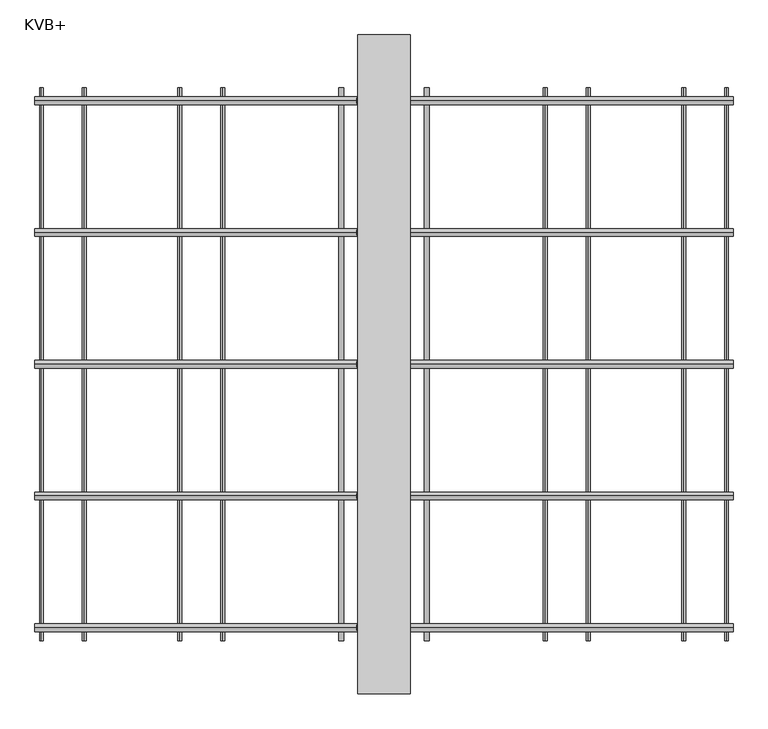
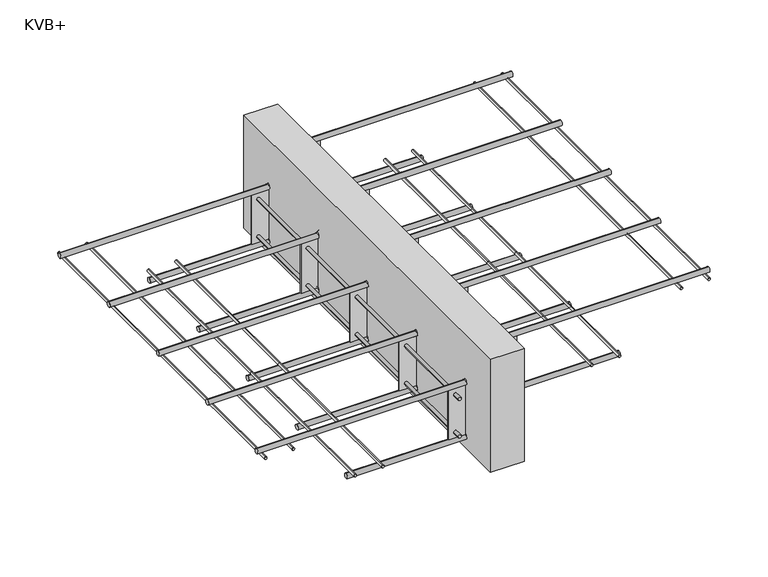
"""IFC4 building model written with IfcOpenShell, lengths in millimetres: proxy geometry, ACINOXplus_Typenreihe_KV : KVB+."""

from ifc_helpers import new_model, si_unit, point, frame, frame_2d, origin, place, context, project, spatial, polyline, circle_curve, ellipse_curve, trimmed, segment, composite_curve, outline, extrude, source, transform, mapped, element, save
from ifc_brep_helpers import plane_surface, cylinder_surface, advanced_brep


def kvb_4cf1eea2(model_context):
    return source(origin(), model_context, "Body", "SolidModel", [
        extrude(outline(polyline([(40.0, 500.0), (40.0, -500.0), (-40.0, -500.0), (-40.0, 500.0), (40.0, 500.0)])), frame((0.0, 0.0, -200.0), z_axis=(0.0, 0.0, 1.0), x_axis=(1.0, 0.0, 0.0)), (0.0, 0.0, 1.0), 280.0),
        extrude(outline(polyline([(-42.0, -40.0), (-42.0, -80.0), (-165.0, -80.0), (-165.0, -40.0), (-85.0, 40.0), (-85.0, 80.0), (38.0, 80.0), (38.0, 40.0), (-42.0, -40.0)])), frame((0.0, 198.5, 0.0), z_axis=(0.0, 1.0, 0.0), x_axis=(0.0, 0.0, 1.0)), (0.0, 0.0, 1.0), 3.0),
        extrude(outline(polyline([(-42.0, -40.0), (-42.0, -80.0), (-165.0, -80.0), (-165.0, -40.0), (-85.0, 40.0), (-85.0, 80.0), (38.0, 80.0), (38.0, 40.0), (-42.0, -40.0)])), frame((0.0, -1.5, 0.0), z_axis=(0.0, 1.0, 0.0), x_axis=(0.0, 0.0, 1.0)), (0.0, 0.0, 1.0), 3.0),
        extrude(outline(polyline([(-42.0, -40.0), (-42.0, -80.0), (-165.0, -80.0), (-165.0, -40.0), (-85.0, 40.0), (-85.0, 80.0), (38.0, 80.0), (38.0, 40.0), (-42.0, -40.0)])), frame((0.0, -201.5, 0.0), z_axis=(0.0, 1.0, 0.0), x_axis=(0.0, 0.0, 1.0)), (0.0, 0.0, 1.0), 3.0),
        extrude(outline(polyline([(-42.0, -40.0), (-42.0, -80.0), (-165.0, -80.0), (-165.0, -40.0), (-85.0, 40.0), (-85.0, 80.0), (38.0, 80.0), (38.0, 40.0), (-42.0, -40.0)])), frame((0.0, 398.5, 0.0), z_axis=(0.0, 1.0, 0.0), x_axis=(0.0, 0.0, 1.0)), (0.0, 0.0, 1.0), 3.0),
        extrude(outline(polyline([(-42.0, -40.0), (-42.0, -80.0), (-165.0, -80.0), (-165.0, -40.0), (-85.0, 40.0), (-85.0, 80.0), (38.0, 80.0), (38.0, 40.0), (-42.0, -40.0)])), frame((0.0, -401.5, 0.0), z_axis=(0.0, 1.0, 0.0), x_axis=(0.0, 0.0, 1.0)), (0.0, 0.0, 1.0), 3.0),
        extrude(outline(composite_curve([segment(trimmed(circle_curve(frame_2d((-150.0, -65.0)), 4.0), [point((-150.0, -69.0))], [point((-150.0, -61.0))], False, "CARTESIAN"), True, "CONTINUOUS"), segment(trimmed(circle_curve(frame_2d((-150.0, -65.0)), 4.0), [point((-150.0, -61.0))], [point((-150.0, -69.0))], False, "CARTESIAN"), True, "CONTINUOUS")], self_intersect=False)), frame((0.0, 401.5, 0.0), z_axis=(0.0, 1.0, 0.0), x_axis=(0.0, 0.0, 1.0)), (0.0, 0.0, 1.0), 18.5),
        extrude(outline(composite_curve([segment(trimmed(circle_curve(frame_2d((-150.0, -65.0)), 4.0), [point((-150.0, -61.0))], [point((-150.0, -69.0))], False, "CARTESIAN"), True, "CONTINUOUS"), segment(trimmed(circle_curve(frame_2d((-150.0, -65.0)), 4.0), [point((-150.0, -69.0))], [point((-150.0, -61.0))], False, "CARTESIAN"), True, "CONTINUOUS")], self_intersect=False)), frame((0.0, -420.0, 0.0), z_axis=(0.0, 1.0, 0.0), x_axis=(0.0, 0.0, 1.0)), (0.0, 0.0, 1.0), 18.5),
        extrude(outline(composite_curve([segment(trimmed(circle_curve(frame_2d((-150.0, -65.0)), 4.0), [point((-150.0, -69.0))], [point((-150.0, -61.0))], False, "CARTESIAN"), True, "CONTINUOUS"), segment(trimmed(circle_curve(frame_2d((-150.0, -65.0)), 4.0), [point((-150.0, -61.0))], [point((-150.0, -69.0))], False, "CARTESIAN"), True, "CONTINUOUS")], self_intersect=False)), frame((0.0, -398.5, 0.0), z_axis=(0.0, 1.0, 0.0), x_axis=(0.0, 0.0, 1.0)), (0.0, 0.0, 1.0), 197.0),
        extrude(outline(composite_curve([segment(trimmed(circle_curve(frame_2d((-150.0, -65.0)), 4.0), [point((-150.0, -69.0))], [point((-150.0, -61.0))], False, "CARTESIAN"), True, "CONTINUOUS"), segment(trimmed(circle_curve(frame_2d((-150.0, -65.0)), 4.0), [point((-150.0, -61.0))], [point((-150.0, -69.0))], False, "CARTESIAN"), True, "CONTINUOUS")], self_intersect=False)), frame((0.0, -198.5, 0.0), z_axis=(0.0, 1.0, 0.0), x_axis=(0.0, 0.0, 1.0)), (0.0, 0.0, 1.0), 597.0),
        extrude(outline(composite_curve([segment(trimmed(circle_curve(frame_2d((-70.0, 65.0)), 4.0), [point((-70.0, 61.0))], [point((-70.0, 69.0))], False, "CARTESIAN"), True, "CONTINUOUS"), segment(trimmed(circle_curve(frame_2d((-70.0, 65.0)), 4.0), [point((-70.0, 69.0))], [point((-70.0, 61.0))], False, "CARTESIAN"), True, "CONTINUOUS")], self_intersect=False)), frame((0.0, 401.5, 0.0), z_axis=(0.0, 1.0, 0.0), x_axis=(0.0, 0.0, 1.0)), (0.0, 0.0, 1.0), 18.5),
        extrude(outline(composite_curve([segment(trimmed(circle_curve(frame_2d((-70.0, 65.0)), 4.0), [point((-70.0, 69.0))], [point((-70.0, 61.0))], False, "CARTESIAN"), True, "CONTINUOUS"), segment(trimmed(circle_curve(frame_2d((-70.0, 65.0)), 4.0), [point((-70.0, 61.0))], [point((-70.0, 69.0))], False, "CARTESIAN"), True, "CONTINUOUS")], self_intersect=False)), frame((0.0, -420.0, 0.0), z_axis=(0.0, 1.0, 0.0), x_axis=(0.0, 0.0, 1.0)), (0.0, 0.0, 1.0), 18.5),
        extrude(outline(composite_curve([segment(trimmed(circle_curve(frame_2d((-70.0, 65.0)), 4.0), [point((-70.0, 61.0))], [point((-70.0, 69.0))], False, "CARTESIAN"), True, "CONTINUOUS"), segment(trimmed(circle_curve(frame_2d((-70.0, 65.0)), 4.0), [point((-70.0, 69.0))], [point((-70.0, 61.0))], False, "CARTESIAN"), True, "CONTINUOUS")], self_intersect=False)), frame((0.0, -198.5, 0.0), z_axis=(0.0, 1.0, 0.0), x_axis=(0.0, 0.0, 1.0)), (0.0, 0.0, 1.0), 597.0),
        extrude(outline(composite_curve([segment(trimmed(circle_curve(frame_2d((-70.0, 65.0)), 4.0), [point((-70.0, 61.0))], [point((-70.0, 69.0))], False, "CARTESIAN"), True, "CONTINUOUS"), segment(trimmed(circle_curve(frame_2d((-70.0, 65.0)), 4.0), [point((-70.0, 69.0))], [point((-70.0, 61.0))], False, "CARTESIAN"), True, "CONTINUOUS")], self_intersect=False)), frame((0.0, -398.5, 0.0), z_axis=(0.0, 1.0, 0.0), x_axis=(0.0, 0.0, 1.0)), (0.0, 0.0, 1.0), 197.0),
        extrude(outline(composite_curve([segment(trimmed(circle_curve(frame_2d((-57.0, -65.0)), 4.0), [point((-57.0, -69.0))], [point((-57.0, -61.0))], False, "CARTESIAN"), True, "CONTINUOUS"), segment(trimmed(circle_curve(frame_2d((-57.0, -65.0)), 4.0), [point((-57.0, -61.0))], [point((-57.0, -69.0))], False, "CARTESIAN"), True, "CONTINUOUS")], self_intersect=False)), frame((0.0, 401.5, 0.0), z_axis=(0.0, 1.0, 0.0), x_axis=(0.0, 0.0, 1.0)), (0.0, 0.0, 1.0), 18.5),
        extrude(outline(composite_curve([segment(trimmed(circle_curve(frame_2d((-57.0, -65.0)), 4.0), [point((-57.0, -61.0))], [point((-57.0, -69.0))], False, "CARTESIAN"), True, "CONTINUOUS"), segment(trimmed(circle_curve(frame_2d((-57.0, -65.0)), 4.0), [point((-57.0, -69.0))], [point((-57.0, -61.0))], False, "CARTESIAN"), True, "CONTINUOUS")], self_intersect=False)), frame((0.0, -420.0, 0.0), z_axis=(0.0, 1.0, 0.0), x_axis=(0.0, 0.0, 1.0)), (0.0, 0.0, 1.0), 18.5),
        extrude(outline(composite_curve([segment(trimmed(circle_curve(frame_2d((-57.0, -65.0)), 4.0), [point((-57.0, -69.0))], [point((-57.0, -61.0))], False, "CARTESIAN"), True, "CONTINUOUS"), segment(trimmed(circle_curve(frame_2d((-57.0, -65.0)), 4.0), [point((-57.0, -61.0))], [point((-57.0, -69.0))], False, "CARTESIAN"), True, "CONTINUOUS")], self_intersect=False)), frame((0.0, -398.5, 0.0), z_axis=(0.0, 1.0, 0.0), x_axis=(0.0, 0.0, 1.0)), (0.0, 0.0, 1.0), 197.0),
        extrude(outline(composite_curve([segment(trimmed(circle_curve(frame_2d((-57.0, -65.0)), 4.0), [point((-57.0, -69.0))], [point((-57.0, -61.0))], False, "CARTESIAN"), True, "CONTINUOUS"), segment(trimmed(circle_curve(frame_2d((-57.0, -65.0)), 4.0), [point((-57.0, -61.0))], [point((-57.0, -69.0))], False, "CARTESIAN"), True, "CONTINUOUS")], self_intersect=False)), frame((0.0, -198.5, 0.0), z_axis=(0.0, 1.0, 0.0), x_axis=(0.0, 0.0, 1.0)), (0.0, 0.0, 1.0), 597.0),
        extrude(outline(composite_curve([segment(trimmed(circle_curve(frame_2d((23.0, 65.0)), 4.0), [point((23.0, 61.0))], [point((23.0, 69.0))], False, "CARTESIAN"), True, "CONTINUOUS"), segment(trimmed(circle_curve(frame_2d((23.0, 65.0)), 4.0), [point((23.0, 69.0))], [point((23.0, 61.0))], False, "CARTESIAN"), True, "CONTINUOUS")], self_intersect=False)), frame((0.0, 401.5, 0.0), z_axis=(0.0, 1.0, 0.0), x_axis=(0.0, 0.0, 1.0)), (0.0, 0.0, 1.0), 18.5),
        extrude(outline(composite_curve([segment(trimmed(circle_curve(frame_2d((23.0, 65.0)), 4.0), [point((23.0, 69.0))], [point((23.0, 61.0))], False, "CARTESIAN"), True, "CONTINUOUS"), segment(trimmed(circle_curve(frame_2d((23.0, 65.0)), 4.0), [point((23.0, 61.0))], [point((23.0, 69.0))], False, "CARTESIAN"), True, "CONTINUOUS")], self_intersect=False)), frame((0.0, -420.0, 0.0), z_axis=(0.0, 1.0, 0.0), x_axis=(0.0, 0.0, 1.0)), (0.0, 0.0, 1.0), 18.5),
        extrude(outline(composite_curve([segment(trimmed(circle_curve(frame_2d((23.0, 65.0)), 4.0), [point((23.0, 61.0))], [point((23.0, 69.0))], False, "CARTESIAN"), True, "CONTINUOUS"), segment(trimmed(circle_curve(frame_2d((23.0, 65.0)), 4.0), [point((23.0, 69.0))], [point((23.0, 61.0))], False, "CARTESIAN"), True, "CONTINUOUS")], self_intersect=False)), frame((0.0, -198.5, 0.0), z_axis=(0.0, 1.0, 0.0), x_axis=(0.0, 0.0, 1.0)), (0.0, 0.0, 1.0), 597.0),
        extrude(outline(composite_curve([segment(trimmed(circle_curve(frame_2d((23.0, 65.0)), 4.0), [point((23.0, 61.0))], [point((23.0, 69.0))], False, "CARTESIAN"), True, "CONTINUOUS"), segment(trimmed(circle_curve(frame_2d((23.0, 65.0)), 4.0), [point((23.0, 69.0))], [point((23.0, 61.0))], False, "CARTESIAN"), True, "CONTINUOUS")], self_intersect=False)), frame((0.0, -398.5, 0.0), z_axis=(0.0, 1.0, 0.0), x_axis=(0.0, 0.0, 1.0)), (0.0, 0.0, 1.0), 197.0),
        advanced_brep(
        [(-320.0, 0.0, -177.0), (-320.0, 0.0, -165.0), (-37.5147186, 0.0, -177.0), (-42.4852814, 0.0, -165.0), (42.4852814, 0.0, -97.0), (37.5147186, 0.0, -85.0), (320.0, 0.0, -97.0), (320.0, 0.0, -85.0)],
        [
            (0, 1, circle_curve(frame((-320.0, 0.0, -171.0), z_axis=(-1.0, 0.0, 0.0), x_axis=(0.0, 0.0, 1.0)), 6.0)),
            (1, 0, circle_curve(frame((-320.0, 0.0, -171.0), z_axis=(-1.0, 0.0, 0.0), x_axis=(0.0, 0.0, 1.0)), 6.0)),
            (0, 2),
            (2, 3, ellipse_curve(frame((-40.0, 0.0, -171.0), z_axis=(-0.9238795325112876, 0.0, -0.382683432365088), x_axis=(-0.3826834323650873, 0.0, 0.923879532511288)), 6.4943532, 6.0)),
            (3, 1),
            (3, 2, ellipse_curve(frame((-40.0, 0.0, -171.0), z_axis=(-0.9238795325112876, 0.0, -0.382683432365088), x_axis=(-0.3826834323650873, 0.0, 0.923879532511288)), 6.4943532, 6.0)),
            (2, 4),
            (4, 5, ellipse_curve(frame((40.0, 0.0, -91.0), z_axis=(-0.9238795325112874, 0.0, -0.382683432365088), x_axis=(0.3826834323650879, 0.0, -0.9238795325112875)), 6.4943532, 6.0)),
            (5, 3),
            (5, 4, ellipse_curve(frame((40.0, 0.0, -91.0), z_axis=(-0.9238795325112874, 0.0, -0.382683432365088), x_axis=(0.3826834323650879, 0.0, -0.9238795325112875)), 6.4943532, 6.0)),
            (6, 7, circle_curve(frame((320.0, 0.0, -91.0), z_axis=(1.0, 0.0, 0.0), x_axis=(0.0, 0.0, 1.0)), 6.0)),
            (7, 6, circle_curve(frame((320.0, 0.0, -91.0), z_axis=(1.0, 0.0, 0.0), x_axis=(0.0, 0.0, 1.0)), 6.0)),
            (4, 6),
            (7, 5),
        ],
        [
            plane_surface(frame((-320.0, 0.0, -171.0), z_axis=(-1.0, 0.0, 0.0), x_axis=(0.0, -1.0, 0.0))),
            cylinder_surface(frame((-320.0, 0.0, -171.0), z_axis=(-1.0, 0.0, 0.0), x_axis=(0.0, 0.0, 1.0)), 6.0),
            cylinder_surface(frame((-40.0, 0.0, -171.0), z_axis=(-0.707106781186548, 0.0, -0.707106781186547), x_axis=(-0.707106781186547, 0.0, 0.707106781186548)), 6.0),
            plane_surface(frame((320.0, 0.0, -91.0), z_axis=(1.0, 0.0, 0.0), x_axis=(0.0, -1.0, 0.0))),
            cylinder_surface(frame((40.0, 0.0, -91.0), z_axis=(-1.0, 0.0, 0.0), x_axis=(0.0, 0.0, 1.0)), 6.0),
        ],
        [
            (0, [[1, 2]]),
            (1, [[-1, 3, 4, 5]]),
            (1, [[-2, -5, 6, -3]]),
            (2, [[-4, 7, 8, 9]]),
            (2, [[-6, -9, 10, -7]]),
            (3, [[11, 12]]),
            (4, [[-8, 13, -12, 14]]),
            (4, [[-10, -14, -11, -13]]),
        ],
    ),
        advanced_brep(
        [(-320.0, 200.0, -177.0), (-320.0, 200.0, -165.0), (-37.5147186, 200.0, -177.0), (-42.4852814, 200.0, -165.0), (42.4852814, 200.0, -97.0), (37.5147186, 200.0, -85.0), (320.0, 200.0, -97.0), (320.0, 200.0, -85.0)],
        [
            (0, 1, circle_curve(frame((-320.0, 200.0, -171.0), z_axis=(-1.0, 0.0, 0.0), x_axis=(0.0, 0.0, 1.0)), 6.0)),
            (1, 0, circle_curve(frame((-320.0, 200.0, -171.0), z_axis=(-1.0, 0.0, 0.0), x_axis=(0.0, 0.0, 1.0)), 6.0)),
            (0, 2),
            (2, 3, ellipse_curve(frame((-40.0, 200.0, -171.0), z_axis=(-0.9238795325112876, 0.0, -0.382683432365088), x_axis=(-0.3826834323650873, 0.0, 0.923879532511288)), 6.4943532, 6.0)),
            (3, 1),
            (3, 2, ellipse_curve(frame((-40.0, 200.0, -171.0), z_axis=(-0.9238795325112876, 0.0, -0.382683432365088), x_axis=(-0.3826834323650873, 0.0, 0.923879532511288)), 6.4943532, 6.0)),
            (2, 4),
            (4, 5, ellipse_curve(frame((40.0, 200.0, -91.0), z_axis=(-0.9238795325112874, 0.0, -0.382683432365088), x_axis=(0.3826834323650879, 0.0, -0.9238795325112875)), 6.4943532, 6.0)),
            (5, 3),
            (5, 4, ellipse_curve(frame((40.0, 200.0, -91.0), z_axis=(-0.9238795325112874, 0.0, -0.382683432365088), x_axis=(0.3826834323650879, 0.0, -0.9238795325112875)), 6.4943532, 6.0)),
            (6, 7, circle_curve(frame((320.0, 200.0, -91.0), z_axis=(1.0, 0.0, 0.0), x_axis=(0.0, 0.0, 1.0)), 6.0)),
            (7, 6, circle_curve(frame((320.0, 200.0, -91.0), z_axis=(1.0, 0.0, 0.0), x_axis=(0.0, 0.0, 1.0)), 6.0)),
            (4, 6),
            (7, 5),
        ],
        [
            plane_surface(frame((-320.0, 200.0, -171.0), z_axis=(-1.0, 0.0, 0.0), x_axis=(0.0, -1.0, 0.0))),
            cylinder_surface(frame((-320.0, 200.0, -171.0), z_axis=(-1.0, 0.0, 0.0), x_axis=(0.0, 0.0, 1.0)), 6.0),
            cylinder_surface(frame((-40.0, 200.0, -171.0), z_axis=(-0.707106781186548, 0.0, -0.707106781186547), x_axis=(-0.707106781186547, 0.0, 0.707106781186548)), 6.0),
            plane_surface(frame((320.0, 200.0, -91.0), z_axis=(1.0, 0.0, 0.0), x_axis=(0.0, -1.0, 0.0))),
            cylinder_surface(frame((40.0, 200.0, -91.0), z_axis=(-1.0, 0.0, 0.0), x_axis=(0.0, 0.0, 1.0)), 6.0),
        ],
        [
            (0, [[1, 2]]),
            (1, [[-1, 3, 4, 5]]),
            (1, [[-2, -5, 6, -3]]),
            (2, [[-4, 7, 8, 9]]),
            (2, [[-6, -9, 10, -7]]),
            (3, [[11, 12]]),
            (4, [[-8, 13, -12, 14]]),
            (4, [[-10, -14, -11, -13]]),
        ],
    ),
        advanced_brep(
        [(-320.0, 400.0, -177.0), (-320.0, 400.0, -165.0), (-37.5147186, 400.0, -177.0), (-42.4852814, 400.0, -165.0), (42.4852814, 400.0, -97.0), (37.5147186, 400.0, -85.0), (320.0, 400.0, -97.0), (320.0, 400.0, -85.0)],
        [
            (0, 1, circle_curve(frame((-320.0, 400.0, -171.0), z_axis=(-1.0, 0.0, 0.0), x_axis=(0.0, 0.0, 1.0)), 6.0)),
            (1, 0, circle_curve(frame((-320.0, 400.0, -171.0), z_axis=(-1.0, 0.0, 0.0), x_axis=(0.0, 0.0, 1.0)), 6.0)),
            (0, 2),
            (2, 3, ellipse_curve(frame((-40.0, 400.0, -171.0), z_axis=(-0.9238795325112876, 0.0, -0.382683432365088), x_axis=(-0.3826834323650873, 0.0, 0.923879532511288)), 6.4943532, 6.0)),
            (3, 1),
            (3, 2, ellipse_curve(frame((-40.0, 400.0, -171.0), z_axis=(-0.9238795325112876, 0.0, -0.382683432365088), x_axis=(-0.3826834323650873, 0.0, 0.923879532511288)), 6.4943532, 6.0)),
            (2, 4),
            (4, 5, ellipse_curve(frame((40.0, 400.0, -91.0), z_axis=(-0.9238795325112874, 0.0, -0.382683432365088), x_axis=(0.3826834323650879, 0.0, -0.9238795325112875)), 6.4943532, 6.0)),
            (5, 3),
            (5, 4, ellipse_curve(frame((40.0, 400.0, -91.0), z_axis=(-0.9238795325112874, 0.0, -0.382683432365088), x_axis=(0.3826834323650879, 0.0, -0.9238795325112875)), 6.4943532, 6.0)),
            (6, 7, circle_curve(frame((320.0, 400.0, -91.0), z_axis=(1.0, 0.0, 0.0), x_axis=(0.0, 0.0, 1.0)), 6.0)),
            (7, 6, circle_curve(frame((320.0, 400.0, -91.0), z_axis=(1.0, 0.0, 0.0), x_axis=(0.0, 0.0, 1.0)), 6.0)),
            (4, 6),
            (7, 5),
        ],
        [
            plane_surface(frame((-320.0, 400.0, -171.0), z_axis=(-1.0, 0.0, 0.0), x_axis=(0.0, -1.0, 0.0))),
            cylinder_surface(frame((-320.0, 400.0, -171.0), z_axis=(-1.0, 0.0, 0.0), x_axis=(0.0, 0.0, 1.0)), 6.0),
            cylinder_surface(frame((-40.0, 400.0, -171.0), z_axis=(-0.707106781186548, 0.0, -0.707106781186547), x_axis=(-0.707106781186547, 0.0, 0.707106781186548)), 6.0),
            plane_surface(frame((320.0, 400.0, -91.0), z_axis=(1.0, 0.0, 0.0), x_axis=(0.0, -1.0, 0.0))),
            cylinder_surface(frame((40.0, 400.0, -91.0), z_axis=(-1.0, 0.0, 0.0), x_axis=(0.0, 0.0, 1.0)), 6.0),
        ],
        [
            (0, [[1, 2]]),
            (1, [[-1, 3, 4, 5]]),
            (1, [[-2, -5, 6, -3]]),
            (2, [[-4, 7, 8, 9]]),
            (2, [[-6, -9, 10, -7]]),
            (3, [[11, 12]]),
            (4, [[-8, 13, -12, 14]]),
            (4, [[-10, -14, -11, -13]]),
        ],
    ),
        advanced_brep(
        [(-320.0, -200.0, -177.0), (-320.0, -200.0, -165.0), (-37.5147186, -200.0, -177.0), (-42.4852814, -200.0, -165.0), (42.4852814, -200.0, -97.0), (37.5147186, -200.0, -85.0), (320.0, -200.0, -97.0), (320.0, -200.0, -85.0)],
        [
            (0, 1, circle_curve(frame((-320.0, -200.0, -171.0), z_axis=(-1.0, 0.0, 0.0), x_axis=(0.0, 0.0, 1.0)), 6.0)),
            (1, 0, circle_curve(frame((-320.0, -200.0, -171.0), z_axis=(-1.0, 0.0, 0.0), x_axis=(0.0, 0.0, 1.0)), 6.0)),
            (0, 2),
            (2, 3, ellipse_curve(frame((-40.0, -200.0, -171.0), z_axis=(-0.9238795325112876, 0.0, -0.382683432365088), x_axis=(-0.3826834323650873, 0.0, 0.923879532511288)), 6.4943532, 6.0)),
            (3, 1),
            (3, 2, ellipse_curve(frame((-40.0, -200.0, -171.0), z_axis=(-0.9238795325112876, 0.0, -0.382683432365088), x_axis=(-0.3826834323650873, 0.0, 0.923879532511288)), 6.4943532, 6.0)),
            (2, 4),
            (4, 5, ellipse_curve(frame((40.0, -200.0, -91.0), z_axis=(-0.9238795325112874, 0.0, -0.382683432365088), x_axis=(0.3826834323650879, 0.0, -0.9238795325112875)), 6.4943532, 6.0)),
            (5, 3),
            (5, 4, ellipse_curve(frame((40.0, -200.0, -91.0), z_axis=(-0.9238795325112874, 0.0, -0.382683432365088), x_axis=(0.3826834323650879, 0.0, -0.9238795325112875)), 6.4943532, 6.0)),
            (6, 7, circle_curve(frame((320.0, -200.0, -91.0), z_axis=(1.0, 0.0, 0.0), x_axis=(0.0, 0.0, 1.0)), 6.0)),
            (7, 6, circle_curve(frame((320.0, -200.0, -91.0), z_axis=(1.0, 0.0, 0.0), x_axis=(0.0, 0.0, 1.0)), 6.0)),
            (4, 6),
            (7, 5),
        ],
        [
            plane_surface(frame((-320.0, -200.0, -171.0), z_axis=(-1.0, 0.0, 0.0), x_axis=(0.0, -1.0, 0.0))),
            cylinder_surface(frame((-320.0, -200.0, -171.0), z_axis=(-1.0, 0.0, 0.0), x_axis=(0.0, 0.0, 1.0)), 6.0),
            cylinder_surface(frame((-40.0, -200.0, -171.0), z_axis=(-0.707106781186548, 0.0, -0.707106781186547), x_axis=(-0.707106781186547, 0.0, 0.707106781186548)), 6.0),
            plane_surface(frame((320.0, -200.0, -91.0), z_axis=(1.0, 0.0, 0.0), x_axis=(0.0, -1.0, 0.0))),
            cylinder_surface(frame((40.0, -200.0, -91.0), z_axis=(-1.0, 0.0, 0.0), x_axis=(0.0, 0.0, 1.0)), 6.0),
        ],
        [
            (0, [[1, 2]]),
            (1, [[-1, 3, 4, 5]]),
            (1, [[-2, -5, 6, -3]]),
            (2, [[-4, 7, 8, 9]]),
            (2, [[-6, -9, 10, -7]]),
            (3, [[11, 12]]),
            (4, [[-8, 13, -12, 14]]),
            (4, [[-10, -14, -11, -13]]),
        ],
    ),
        advanced_brep(
        [(-320.0, -400.0, -177.0), (-320.0, -400.0, -165.0), (-37.5147186, -400.0, -177.0), (-42.4852814, -400.0, -165.0), (42.4852814, -400.0, -97.0), (37.5147186, -400.0, -85.0), (320.0, -400.0, -97.0), (320.0, -400.0, -85.0)],
        [
            (0, 1, circle_curve(frame((-320.0, -400.0, -171.0), z_axis=(-1.0, 0.0, 0.0), x_axis=(0.0, 0.0, 1.0)), 6.0)),
            (1, 0, circle_curve(frame((-320.0, -400.0, -171.0), z_axis=(-1.0, 0.0, 0.0), x_axis=(0.0, 0.0, 1.0)), 6.0)),
            (0, 2),
            (2, 3, ellipse_curve(frame((-40.0, -400.0, -171.0), z_axis=(-0.9238795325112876, 0.0, -0.382683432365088), x_axis=(-0.3826834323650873, 0.0, 0.923879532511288)), 6.4943532, 6.0)),
            (3, 1),
            (3, 2, ellipse_curve(frame((-40.0, -400.0, -171.0), z_axis=(-0.9238795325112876, 0.0, -0.382683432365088), x_axis=(-0.3826834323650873, 0.0, 0.923879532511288)), 6.4943532, 6.0)),
            (2, 4),
            (4, 5, ellipse_curve(frame((40.0, -400.0, -91.0), z_axis=(-0.9238795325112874, 0.0, -0.382683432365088), x_axis=(0.3826834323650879, 0.0, -0.9238795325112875)), 6.4943532, 6.0)),
            (5, 3),
            (5, 4, ellipse_curve(frame((40.0, -400.0, -91.0), z_axis=(-0.9238795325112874, 0.0, -0.382683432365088), x_axis=(0.3826834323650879, 0.0, -0.9238795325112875)), 6.4943532, 6.0)),
            (6, 7, circle_curve(frame((320.0, -400.0, -91.0), z_axis=(1.0, 0.0, 0.0), x_axis=(0.0, 0.0, 1.0)), 6.0)),
            (7, 6, circle_curve(frame((320.0, -400.0, -91.0), z_axis=(1.0, 0.0, 0.0), x_axis=(0.0, 0.0, 1.0)), 6.0)),
            (4, 6),
            (7, 5),
        ],
        [
            plane_surface(frame((-320.0, -400.0, -171.0), z_axis=(-1.0, 0.0, 0.0), x_axis=(0.0, -1.0, 0.0))),
            cylinder_surface(frame((-320.0, -400.0, -171.0), z_axis=(-1.0, 0.0, 0.0), x_axis=(0.0, 0.0, 1.0)), 6.0),
            cylinder_surface(frame((-40.0, -400.0, -171.0), z_axis=(-0.707106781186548, 0.0, -0.707106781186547), x_axis=(-0.707106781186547, 0.0, 0.707106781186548)), 6.0),
            plane_surface(frame((320.0, -400.0, -91.0), z_axis=(1.0, 0.0, 0.0), x_axis=(0.0, -1.0, 0.0))),
            cylinder_surface(frame((40.0, -400.0, -91.0), z_axis=(-1.0, 0.0, 0.0), x_axis=(0.0, 0.0, 1.0)), 6.0),
        ],
        [
            (0, [[1, 2]]),
            (1, [[-1, 3, 4, 5]]),
            (1, [[-2, -5, 6, -3]]),
            (2, [[-4, 7, 8, 9]]),
            (2, [[-6, -9, 10, -7]]),
            (3, [[11, 12]]),
            (4, [[-8, 13, -12, 14]]),
            (4, [[-10, -14, -11, -13]]),
        ],
    ),
        advanced_brep(
        [(-530.0, 0.0, -42.0), (-530.0, 0.0, -30.0), (-37.5147186, 0.0, -42.0), (-42.4852814, 0.0, -30.0), (530.0, 0.0, 38.0), (530.0, 0.0, 50.0), (37.5147186, 0.0, 50.0), (42.4852814, 0.0, 38.0)],
        [
            (0, 1, circle_curve(frame((-530.0, 0.0, -36.0), z_axis=(-1.0, 0.0, 0.0), x_axis=(0.0, 0.0, 1.0)), 6.0)),
            (1, 0, circle_curve(frame((-530.0, 0.0, -36.0), z_axis=(-1.0, 0.0, 0.0), x_axis=(0.0, 0.0, 1.0)), 6.0)),
            (0, 2),
            (2, 3, ellipse_curve(frame((-40.0, 0.0, -36.0), z_axis=(-0.923879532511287, 0.0, -0.38268343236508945), x_axis=(-0.38268343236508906, 0.0, 0.9238795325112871)), 6.4943532, 6.0)),
            (3, 1),
            (3, 2, ellipse_curve(frame((-40.0, 0.0, -36.0), z_axis=(-0.923879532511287, 0.0, -0.38268343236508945), x_axis=(-0.38268343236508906, 0.0, 0.9238795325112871)), 6.4943532, 6.0)),
            (4, 5, circle_curve(frame((530.0, 0.0, 44.0), z_axis=(1.0, 0.0, 0.0), x_axis=(0.0, 0.0, 1.0)), 6.0)),
            (5, 4, circle_curve(frame((530.0, 0.0, 44.0), z_axis=(1.0, 0.0, 0.0), x_axis=(0.0, 0.0, 1.0)), 6.0)),
            (6, 7, ellipse_curve(frame((40.0, 0.0, 44.0), z_axis=(0.923879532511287, 0.0, 0.38268343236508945), x_axis=(-0.38268343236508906, 0.0, 0.9238795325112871)), 6.4943532, 6.0)),
            (7, 4),
            (5, 6),
            (7, 6, ellipse_curve(frame((40.0, 0.0, 44.0), z_axis=(0.923879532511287, 0.0, 0.38268343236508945), x_axis=(-0.38268343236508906, 0.0, 0.9238795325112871)), 6.4943532, 6.0)),
            (2, 7),
            (6, 3),
        ],
        [
            plane_surface(frame((-530.0, 0.0, -36.0), z_axis=(-1.0, 0.0, 0.0), x_axis=(0.0, -1.0, 0.0))),
            cylinder_surface(frame((-530.0, 0.0, -36.0), z_axis=(-1.0, 0.0, 0.0), x_axis=(0.0, 0.0, 1.0)), 6.0),
            plane_surface(frame((530.0, 0.0, 44.0), z_axis=(1.0, 0.0, 0.0), x_axis=(0.0, -1.0, 0.0))),
            cylinder_surface(frame((40.0, 0.0, 44.0), z_axis=(-1.0, 0.0, 0.0), x_axis=(0.0, 0.0, 1.0)), 6.0),
            cylinder_surface(frame((-40.0, 0.0, -36.0), z_axis=(-0.7071067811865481, 0.0, -0.707106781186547), x_axis=(-0.707106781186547, 0.0, 0.7071067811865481)), 6.0),
        ],
        [
            (0, [[1, 2]]),
            (1, [[-1, 3, 4, 5]]),
            (1, [[-2, -5, 6, -3]]),
            (2, [[7, 8]]),
            (3, [[9, 10, -8, 11]]),
            (3, [[12, -11, -7, -10]]),
            (4, [[-4, 13, -9, 14]]),
            (4, [[-6, -14, -12, -13]]),
        ],
    ),
        advanced_brep(
        [(-530.0, 200.0, -42.0), (-530.0, 200.0, -30.0), (-37.5147186, 200.0, -42.0), (-42.4852814, 200.0, -30.0), (530.0, 200.0, 38.0), (530.0, 200.0, 50.0), (37.5147186, 200.0, 50.0), (42.4852814, 200.0, 38.0)],
        [
            (0, 1, circle_curve(frame((-530.0, 200.0, -36.0), z_axis=(-1.0, 0.0, 0.0), x_axis=(0.0, 0.0, 1.0)), 6.0)),
            (1, 0, circle_curve(frame((-530.0, 200.0, -36.0), z_axis=(-1.0, 0.0, 0.0), x_axis=(0.0, 0.0, 1.0)), 6.0)),
            (0, 2),
            (2, 3, ellipse_curve(frame((-40.0, 200.0, -36.0), z_axis=(-0.923879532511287, 0.0, -0.38268343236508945), x_axis=(-0.38268343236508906, 0.0, 0.9238795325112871)), 6.4943532, 6.0)),
            (3, 1),
            (3, 2, ellipse_curve(frame((-40.0, 200.0, -36.0), z_axis=(-0.923879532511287, 0.0, -0.38268343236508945), x_axis=(-0.38268343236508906, 0.0, 0.9238795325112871)), 6.4943532, 6.0)),
            (4, 5, circle_curve(frame((530.0, 200.0, 44.0), z_axis=(1.0, 0.0, 0.0), x_axis=(0.0, 0.0, 1.0)), 6.0)),
            (5, 4, circle_curve(frame((530.0, 200.0, 44.0), z_axis=(1.0, 0.0, 0.0), x_axis=(0.0, 0.0, 1.0)), 6.0)),
            (6, 7, ellipse_curve(frame((40.0, 200.0, 44.0), z_axis=(0.923879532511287, 0.0, 0.38268343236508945), x_axis=(-0.38268343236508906, 0.0, 0.9238795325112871)), 6.4943532, 6.0)),
            (7, 4),
            (5, 6),
            (7, 6, ellipse_curve(frame((40.0, 200.0, 44.0), z_axis=(0.923879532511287, 0.0, 0.38268343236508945), x_axis=(-0.38268343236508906, 0.0, 0.9238795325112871)), 6.4943532, 6.0)),
            (2, 7),
            (6, 3),
        ],
        [
            plane_surface(frame((-530.0, 200.0, -36.0), z_axis=(-1.0, 0.0, 0.0), x_axis=(0.0, -1.0, 0.0))),
            cylinder_surface(frame((-530.0, 200.0, -36.0), z_axis=(-1.0, 0.0, 0.0), x_axis=(0.0, 0.0, 1.0)), 6.0),
            plane_surface(frame((530.0, 200.0, 44.0), z_axis=(1.0, 0.0, 0.0), x_axis=(0.0, -1.0, 0.0))),
            cylinder_surface(frame((40.0, 200.0, 44.0), z_axis=(-1.0, 0.0, 0.0), x_axis=(0.0, 0.0, 1.0)), 6.0),
            cylinder_surface(frame((-40.0, 200.0, -36.0), z_axis=(-0.7071067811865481, 0.0, -0.707106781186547), x_axis=(-0.707106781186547, 0.0, 0.7071067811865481)), 6.0),
        ],
        [
            (0, [[1, 2]]),
            (1, [[-1, 3, 4, 5]]),
            (1, [[-2, -5, 6, -3]]),
            (2, [[7, 8]]),
            (3, [[9, 10, -8, 11]]),
            (3, [[12, -11, -7, -10]]),
            (4, [[-4, 13, -9, 14]]),
            (4, [[-6, -14, -12, -13]]),
        ],
    ),
        advanced_brep(
        [(-530.0, 400.0, -42.0), (-530.0, 400.0, -30.0), (-37.5147186, 400.0, -42.0), (-42.4852814, 400.0, -30.0), (530.0, 400.0, 38.0), (530.0, 400.0, 50.0), (37.5147186, 400.0, 50.0), (42.4852814, 400.0, 38.0)],
        [
            (0, 1, circle_curve(frame((-530.0, 400.0, -36.0), z_axis=(-1.0, 0.0, 0.0), x_axis=(0.0, 0.0, 1.0)), 6.0)),
            (1, 0, circle_curve(frame((-530.0, 400.0, -36.0), z_axis=(-1.0, 0.0, 0.0), x_axis=(0.0, 0.0, 1.0)), 6.0)),
            (0, 2),
            (2, 3, ellipse_curve(frame((-40.0, 400.0, -36.0), z_axis=(-0.923879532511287, 0.0, -0.38268343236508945), x_axis=(-0.38268343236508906, 0.0, 0.9238795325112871)), 6.4943532, 6.0)),
            (3, 1),
            (3, 2, ellipse_curve(frame((-40.0, 400.0, -36.0), z_axis=(-0.923879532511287, 0.0, -0.38268343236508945), x_axis=(-0.38268343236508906, 0.0, 0.9238795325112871)), 6.4943532, 6.0)),
            (4, 5, circle_curve(frame((530.0, 400.0, 44.0), z_axis=(1.0, 0.0, 0.0), x_axis=(0.0, 0.0, 1.0)), 6.0)),
            (5, 4, circle_curve(frame((530.0, 400.0, 44.0), z_axis=(1.0, 0.0, 0.0), x_axis=(0.0, 0.0, 1.0)), 6.0)),
            (6, 7, ellipse_curve(frame((40.0, 400.0, 44.0), z_axis=(0.923879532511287, 0.0, 0.38268343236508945), x_axis=(-0.38268343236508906, 0.0, 0.9238795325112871)), 6.4943532, 6.0)),
            (7, 4),
            (5, 6),
            (7, 6, ellipse_curve(frame((40.0, 400.0, 44.0), z_axis=(0.923879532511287, 0.0, 0.38268343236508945), x_axis=(-0.38268343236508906, 0.0, 0.9238795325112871)), 6.4943532, 6.0)),
            (2, 7),
            (6, 3),
        ],
        [
            plane_surface(frame((-530.0, 400.0, -36.0), z_axis=(-1.0, 0.0, 0.0), x_axis=(0.0, -1.0, 0.0))),
            cylinder_surface(frame((-530.0, 400.0, -36.0), z_axis=(-1.0, 0.0, 0.0), x_axis=(0.0, 0.0, 1.0)), 6.0),
            plane_surface(frame((530.0, 400.0, 44.0), z_axis=(1.0, 0.0, 0.0), x_axis=(0.0, -1.0, 0.0))),
            cylinder_surface(frame((40.0, 400.0, 44.0), z_axis=(-1.0, 0.0, 0.0), x_axis=(0.0, 0.0, 1.0)), 6.0),
            cylinder_surface(frame((-40.0, 400.0, -36.0), z_axis=(-0.7071067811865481, 0.0, -0.707106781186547), x_axis=(-0.707106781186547, 0.0, 0.7071067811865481)), 6.0),
        ],
        [
            (0, [[1, 2]]),
            (1, [[-1, 3, 4, 5]]),
            (1, [[-2, -5, 6, -3]]),
            (2, [[7, 8]]),
            (3, [[9, 10, -8, 11]]),
            (3, [[12, -11, -7, -10]]),
            (4, [[-4, 13, -9, 14]]),
            (4, [[-6, -14, -12, -13]]),
        ],
    ),
        advanced_brep(
        [(-530.0, -200.0, -42.0), (-530.0, -200.0, -30.0), (-37.5147186, -200.0, -42.0), (-42.4852814, -200.0, -30.0), (530.0, -200.0, 38.0), (530.0, -200.0, 50.0), (37.5147186, -200.0, 50.0), (42.4852814, -200.0, 38.0)],
        [
            (0, 1, circle_curve(frame((-530.0, -200.0, -36.0), z_axis=(-1.0, 0.0, 0.0), x_axis=(0.0, 0.0, 1.0)), 6.0)),
            (1, 0, circle_curve(frame((-530.0, -200.0, -36.0), z_axis=(-1.0, 0.0, 0.0), x_axis=(0.0, 0.0, 1.0)), 6.0)),
            (0, 2),
            (2, 3, ellipse_curve(frame((-40.0, -200.0, -36.0), z_axis=(-0.923879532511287, 0.0, -0.38268343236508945), x_axis=(-0.38268343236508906, 0.0, 0.9238795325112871)), 6.4943532, 6.0)),
            (3, 1),
            (3, 2, ellipse_curve(frame((-40.0, -200.0, -36.0), z_axis=(-0.923879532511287, 0.0, -0.38268343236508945), x_axis=(-0.38268343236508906, 0.0, 0.9238795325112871)), 6.4943532, 6.0)),
            (4, 5, circle_curve(frame((530.0, -200.0, 44.0), z_axis=(1.0, 0.0, 0.0), x_axis=(0.0, 0.0, 1.0)), 6.0)),
            (5, 4, circle_curve(frame((530.0, -200.0, 44.0), z_axis=(1.0, 0.0, 0.0), x_axis=(0.0, 0.0, 1.0)), 6.0)),
            (6, 7, ellipse_curve(frame((40.0, -200.0, 44.0), z_axis=(0.923879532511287, 0.0, 0.38268343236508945), x_axis=(-0.38268343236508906, 0.0, 0.9238795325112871)), 6.4943532, 6.0)),
            (7, 4),
            (5, 6),
            (7, 6, ellipse_curve(frame((40.0, -200.0, 44.0), z_axis=(0.923879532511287, 0.0, 0.38268343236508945), x_axis=(-0.38268343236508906, 0.0, 0.9238795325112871)), 6.4943532, 6.0)),
            (2, 7),
            (6, 3),
        ],
        [
            plane_surface(frame((-530.0, -200.0, -36.0), z_axis=(-1.0, 0.0, 0.0), x_axis=(0.0, -1.0, 0.0))),
            cylinder_surface(frame((-530.0, -200.0, -36.0), z_axis=(-1.0, 0.0, 0.0), x_axis=(0.0, 0.0, 1.0)), 6.0),
            plane_surface(frame((530.0, -200.0, 44.0), z_axis=(1.0, 0.0, 0.0), x_axis=(0.0, -1.0, 0.0))),
            cylinder_surface(frame((40.0, -200.0, 44.0), z_axis=(-1.0, 0.0, 0.0), x_axis=(0.0, 0.0, 1.0)), 6.0),
            cylinder_surface(frame((-40.0, -200.0, -36.0), z_axis=(-0.7071067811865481, 0.0, -0.707106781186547), x_axis=(-0.707106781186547, 0.0, 0.7071067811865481)), 6.0),
        ],
        [
            (0, [[1, 2]]),
            (1, [[-1, 3, 4, 5]]),
            (1, [[-2, -5, 6, -3]]),
            (2, [[7, 8]]),
            (3, [[9, 10, -8, 11]]),
            (3, [[12, -11, -7, -10]]),
            (4, [[-4, 13, -9, 14]]),
            (4, [[-6, -14, -12, -13]]),
        ],
    ),
        advanced_brep(
        [(-530.0, -400.0, -42.0), (-530.0, -400.0, -30.0), (-37.5147186, -400.0, -42.0), (-42.4852814, -400.0, -30.0), (530.0, -400.0, 38.0), (530.0, -400.0, 50.0), (37.5147186, -400.0, 50.0), (42.4852814, -400.0, 38.0)],
        [
            (0, 1, circle_curve(frame((-530.0, -400.0, -36.0), z_axis=(-1.0, 0.0, 0.0), x_axis=(0.0, 0.0, 1.0)), 6.0)),
            (1, 0, circle_curve(frame((-530.0, -400.0, -36.0), z_axis=(-1.0, 0.0, 0.0), x_axis=(0.0, 0.0, 1.0)), 6.0)),
            (0, 2),
            (2, 3, ellipse_curve(frame((-40.0, -400.0, -36.0), z_axis=(-0.923879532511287, 0.0, -0.38268343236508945), x_axis=(-0.38268343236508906, 0.0, 0.9238795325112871)), 6.4943532, 6.0)),
            (3, 1),
            (3, 2, ellipse_curve(frame((-40.0, -400.0, -36.0), z_axis=(-0.923879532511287, 0.0, -0.38268343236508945), x_axis=(-0.38268343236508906, 0.0, 0.9238795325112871)), 6.4943532, 6.0)),
            (4, 5, circle_curve(frame((530.0, -400.0, 44.0), z_axis=(1.0, 0.0, 0.0), x_axis=(0.0, 0.0, 1.0)), 6.0)),
            (5, 4, circle_curve(frame((530.0, -400.0, 44.0), z_axis=(1.0, 0.0, 0.0), x_axis=(0.0, 0.0, 1.0)), 6.0)),
            (6, 7, ellipse_curve(frame((40.0, -400.0, 44.0), z_axis=(0.923879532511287, 0.0, 0.38268343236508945), x_axis=(-0.38268343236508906, 0.0, 0.9238795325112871)), 6.4943532, 6.0)),
            (7, 4),
            (5, 6),
            (7, 6, ellipse_curve(frame((40.0, -400.0, 44.0), z_axis=(0.923879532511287, 0.0, 0.38268343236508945), x_axis=(-0.38268343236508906, 0.0, 0.9238795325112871)), 6.4943532, 6.0)),
            (2, 7),
            (6, 3),
        ],
        [
            plane_surface(frame((-530.0, -400.0, -36.0), z_axis=(-1.0, 0.0, 0.0), x_axis=(0.0, -1.0, 0.0))),
            cylinder_surface(frame((-530.0, -400.0, -36.0), z_axis=(-1.0, 0.0, 0.0), x_axis=(0.0, 0.0, 1.0)), 6.0),
            plane_surface(frame((530.0, -400.0, 44.0), z_axis=(1.0, 0.0, 0.0), x_axis=(0.0, -1.0, 0.0))),
            cylinder_surface(frame((40.0, -400.0, 44.0), z_axis=(-1.0, 0.0, 0.0), x_axis=(0.0, 0.0, 1.0)), 6.0),
            cylinder_surface(frame((-40.0, -400.0, -36.0), z_axis=(-0.7071067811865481, 0.0, -0.707106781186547), x_axis=(-0.707106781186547, 0.0, 0.7071067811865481)), 6.0),
        ],
        [
            (0, [[1, 2]]),
            (1, [[-1, 3, 4, 5]]),
            (1, [[-2, -5, 6, -3]]),
            (2, [[7, 8]]),
            (3, [[9, 10, -8, 11]]),
            (3, [[12, -11, -7, -10]]),
            (4, [[-4, 13, -9, 14]]),
            (4, [[-6, -14, -12, -13]]),
        ],
    ),
        advanced_brep(
        [(-310.0, -420.0, -165.0), (-310.0, -420.0, -159.0), (-310.0, 0.0, -165.0), (-310.0, 0.0, -159.0), (-310.0, 420.0, -165.0), (-310.0, 420.0, -159.0)],
        [
            (0, 1, circle_curve(frame((-310.0, -420.0, -162.0), z_axis=(0.0, -1.0, 0.0), x_axis=(0.0, 0.0, 1.0)), 3.0)),
            (1, 0, circle_curve(frame((-310.0, -420.0, -162.0), z_axis=(0.0, -1.0, 0.0), x_axis=(0.0, 0.0, 1.0)), 3.0)),
            (0, 2),
            (2, 3, circle_curve(frame((-310.0, 0.0, -162.0), z_axis=(0.0, -1.0, 0.0), x_axis=(0.0, 0.0, 1.0)), 3.0)),
            (3, 1),
            (3, 2, circle_curve(frame((-310.0, 0.0, -162.0), z_axis=(0.0, -1.0, 0.0), x_axis=(0.0, 0.0, 1.0)), 3.0)),
            (4, 5, circle_curve(frame((-310.0, 420.0, -162.0), z_axis=(0.0, 1.0, 0.0), x_axis=(0.0, 0.0, 1.0)), 3.0)),
            (5, 4, circle_curve(frame((-310.0, 420.0, -162.0), z_axis=(0.0, 1.0, 0.0), x_axis=(0.0, 0.0, 1.0)), 3.0)),
            (2, 4),
            (5, 3),
        ],
        [
            plane_surface(frame((-310.0, -420.0, -162.0), z_axis=(0.0, -1.0, 0.0), x_axis=(1.0, 0.0, 0.0))),
            cylinder_surface(frame((-310.0, -420.0, -162.0), z_axis=(0.0, -1.0, 0.0), x_axis=(0.0, 0.0, 1.0)), 3.0),
            plane_surface(frame((-310.0, 420.0, -162.0), z_axis=(0.0, 1.0, 0.0), x_axis=(1.0, 0.0, 0.0))),
            cylinder_surface(frame((-310.0, 0.0, -162.0), z_axis=(0.0, -1.0, 0.0), x_axis=(0.0, 0.0, 1.0)), 3.0),
        ],
        [
            (0, [[1, 2]]),
            (1, [[-1, 3, 4, 5]]),
            (1, [[-2, -5, 6, -3]]),
            (2, [[7, 8]]),
            (3, [[-4, 9, -8, 10]]),
            (3, [[-6, -10, -7, -9]]),
        ],
    ),
        advanced_brep(
        [(-245.0, -420.0, -165.0), (-245.0, -420.0, -159.0), (-245.0, 0.0, -165.0), (-245.0, 0.0, -159.0), (-245.0, 420.0, -165.0), (-245.0, 420.0, -159.0)],
        [
            (0, 1, circle_curve(frame((-245.0, -420.0, -162.0), z_axis=(0.0, -1.0, 0.0), x_axis=(0.0, 0.0, 1.0)), 3.0)),
            (1, 0, circle_curve(frame((-245.0, -420.0, -162.0), z_axis=(0.0, -1.0, 0.0), x_axis=(0.0, 0.0, 1.0)), 3.0)),
            (0, 2),
            (2, 3, circle_curve(frame((-245.0, 0.0, -162.0), z_axis=(0.0, -1.0, 0.0), x_axis=(0.0, 0.0, 1.0)), 3.0)),
            (3, 1),
            (3, 2, circle_curve(frame((-245.0, 0.0, -162.0), z_axis=(0.0, -1.0, 0.0), x_axis=(0.0, 0.0, 1.0)), 3.0)),
            (4, 5, circle_curve(frame((-245.0, 420.0, -162.0), z_axis=(0.0, 1.0, 0.0), x_axis=(0.0, 0.0, 1.0)), 3.0)),
            (5, 4, circle_curve(frame((-245.0, 420.0, -162.0), z_axis=(0.0, 1.0, 0.0), x_axis=(0.0, 0.0, 1.0)), 3.0)),
            (2, 4),
            (5, 3),
        ],
        [
            plane_surface(frame((-245.0, -420.0, -162.0), z_axis=(0.0, -1.0, 0.0), x_axis=(1.0, 0.0, 0.0))),
            cylinder_surface(frame((-245.0, -420.0, -162.0), z_axis=(0.0, -1.0, 0.0), x_axis=(0.0, 0.0, 1.0)), 3.0),
            plane_surface(frame((-245.0, 420.0, -162.0), z_axis=(0.0, 1.0, 0.0), x_axis=(1.0, 0.0, 0.0))),
            cylinder_surface(frame((-245.0, 0.0, -162.0), z_axis=(0.0, -1.0, 0.0), x_axis=(0.0, 0.0, 1.0)), 3.0),
        ],
        [
            (0, [[1, 2]]),
            (1, [[-1, 3, 4, 5]]),
            (1, [[-2, -5, 6, -3]]),
            (2, [[7, 8]]),
            (3, [[-4, 9, -8, 10]]),
            (3, [[-6, -10, -7, -9]]),
        ],
    ),
        advanced_brep(
        [(245.0, -420.0, -85.0), (245.0, -420.0, -79.0), (245.0, 0.0, -85.0), (245.0, 0.0, -79.0), (245.0, 420.0, -85.0), (245.0, 420.0, -79.0)],
        [
            (0, 1, circle_curve(frame((245.0, -420.0, -82.0), z_axis=(0.0, -1.0, 0.0), x_axis=(0.0, 0.0, 1.0)), 3.0)),
            (1, 0, circle_curve(frame((245.0, -420.0, -82.0), z_axis=(0.0, -1.0, 0.0), x_axis=(0.0, 0.0, 1.0)), 3.0)),
            (0, 2),
            (2, 3, circle_curve(frame((245.0, 0.0, -82.0), z_axis=(0.0, -1.0, 0.0), x_axis=(0.0, 0.0, 1.0)), 3.0)),
            (3, 1),
            (3, 2, circle_curve(frame((245.0, 0.0, -82.0), z_axis=(0.0, -1.0, 0.0), x_axis=(0.0, 0.0, 1.0)), 3.0)),
            (4, 5, circle_curve(frame((245.0, 420.0, -82.0), z_axis=(0.0, 1.0, 0.0), x_axis=(0.0, 0.0, 1.0)), 3.0)),
            (5, 4, circle_curve(frame((245.0, 420.0, -82.0), z_axis=(0.0, 1.0, 0.0), x_axis=(0.0, 0.0, 1.0)), 3.0)),
            (2, 4),
            (5, 3),
        ],
        [
            plane_surface(frame((245.0, -420.0, -82.0), z_axis=(0.0, -1.0, 0.0), x_axis=(1.0, 0.0, 0.0))),
            cylinder_surface(frame((245.0, -420.0, -82.0), z_axis=(0.0, -1.0, 0.0), x_axis=(0.0, 0.0, 1.0)), 3.0),
            plane_surface(frame((245.0, 420.0, -82.0), z_axis=(0.0, 1.0, 0.0), x_axis=(1.0, 0.0, 0.0))),
            cylinder_surface(frame((245.0, 0.0, -82.0), z_axis=(0.0, -1.0, 0.0), x_axis=(0.0, 0.0, 1.0)), 3.0),
        ],
        [
            (0, [[1, 2]]),
            (1, [[-1, 3, 4, 5]]),
            (1, [[-2, -5, 6, -3]]),
            (2, [[7, 8]]),
            (3, [[-4, 9, -8, 10]]),
            (3, [[-6, -10, -7, -9]]),
        ],
    ),
        advanced_brep(
        [(310.0, -420.0, -85.0), (310.0, -420.0, -79.0), (310.0, 0.0, -85.0), (310.0, 0.0, -79.0), (310.0, 420.0, -85.0), (310.0, 420.0, -79.0)],
        [
            (0, 1, circle_curve(frame((310.0, -420.0, -82.0), z_axis=(0.0, -1.0, 0.0), x_axis=(0.0, 0.0, 1.0)), 3.0)),
            (1, 0, circle_curve(frame((310.0, -420.0, -82.0), z_axis=(0.0, -1.0, 0.0), x_axis=(0.0, 0.0, 1.0)), 3.0)),
            (0, 2),
            (2, 3, circle_curve(frame((310.0, 0.0, -82.0), z_axis=(0.0, -1.0, 0.0), x_axis=(0.0, 0.0, 1.0)), 3.0)),
            (3, 1),
            (3, 2, circle_curve(frame((310.0, 0.0, -82.0), z_axis=(0.0, -1.0, 0.0), x_axis=(0.0, 0.0, 1.0)), 3.0)),
            (4, 5, circle_curve(frame((310.0, 420.0, -82.0), z_axis=(0.0, 1.0, 0.0), x_axis=(0.0, 0.0, 1.0)), 3.0)),
            (5, 4, circle_curve(frame((310.0, 420.0, -82.0), z_axis=(0.0, 1.0, 0.0), x_axis=(0.0, 0.0, 1.0)), 3.0)),
            (2, 4),
            (5, 3),
        ],
        [
            plane_surface(frame((310.0, -420.0, -82.0), z_axis=(0.0, -1.0, 0.0), x_axis=(1.0, 0.0, 0.0))),
            cylinder_surface(frame((310.0, -420.0, -82.0), z_axis=(0.0, -1.0, 0.0), x_axis=(0.0, 0.0, 1.0)), 3.0),
            plane_surface(frame((310.0, 420.0, -82.0), z_axis=(0.0, 1.0, 0.0), x_axis=(1.0, 0.0, 0.0))),
            cylinder_surface(frame((310.0, 0.0, -82.0), z_axis=(0.0, -1.0, 0.0), x_axis=(0.0, 0.0, 1.0)), 3.0),
        ],
        [
            (0, [[1, 2]]),
            (1, [[-1, 3, 4, 5]]),
            (1, [[-2, -5, 6, -3]]),
            (2, [[7, 8]]),
            (3, [[-4, 9, -8, 10]]),
            (3, [[-6, -10, -7, -9]]),
        ],
    ),
        advanced_brep(
        [(455.0, -420.0, 32.0), (455.0, -420.0, 38.0), (455.0, 0.0, 32.0), (455.0, 0.0, 38.0), (455.0, 420.0, 32.0), (455.0, 420.0, 38.0)],
        [
            (0, 1, circle_curve(frame((455.0, -420.0, 35.0), z_axis=(0.0, -1.0, 0.0), x_axis=(0.0, 0.0, 1.0)), 3.0)),
            (1, 0, circle_curve(frame((455.0, -420.0, 35.0), z_axis=(0.0, -1.0, 0.0), x_axis=(0.0, 0.0, 1.0)), 3.0)),
            (0, 2),
            (2, 3, circle_curve(frame((455.0, 0.0, 35.0), z_axis=(0.0, -1.0, 0.0), x_axis=(0.0, 0.0, 1.0)), 3.0)),
            (3, 1),
            (3, 2, circle_curve(frame((455.0, 0.0, 35.0), z_axis=(0.0, -1.0, 0.0), x_axis=(0.0, 0.0, 1.0)), 3.0)),
            (4, 5, circle_curve(frame((455.0, 420.0, 35.0), z_axis=(0.0, 1.0, 0.0), x_axis=(0.0, 0.0, 1.0)), 3.0)),
            (5, 4, circle_curve(frame((455.0, 420.0, 35.0), z_axis=(0.0, 1.0, 0.0), x_axis=(0.0, 0.0, 1.0)), 3.0)),
            (2, 4),
            (5, 3),
        ],
        [
            plane_surface(frame((455.0, -420.0, 35.0), z_axis=(0.0, -1.0, 0.0), x_axis=(1.0, 0.0, 0.0))),
            cylinder_surface(frame((455.0, -420.0, 35.0), z_axis=(0.0, -1.0, 0.0), x_axis=(0.0, 0.0, 1.0)), 3.0),
            plane_surface(frame((455.0, 420.0, 35.0), z_axis=(0.0, 1.0, 0.0), x_axis=(1.0, 0.0, 0.0))),
            cylinder_surface(frame((455.0, 0.0, 35.0), z_axis=(0.0, -1.0, 0.0), x_axis=(0.0, 0.0, 1.0)), 3.0),
        ],
        [
            (0, [[1, 2]]),
            (1, [[-1, 3, 4, 5]]),
            (1, [[-2, -5, 6, -3]]),
            (2, [[7, 8]]),
            (3, [[-4, 9, -8, 10]]),
            (3, [[-6, -10, -7, -9]]),
        ],
    ),
        advanced_brep(
        [(520.0, -420.0, 32.0), (520.0, -420.0, 38.0), (520.0, 0.0, 32.0), (520.0, 0.0, 38.0), (520.0, 420.0, 32.0), (520.0, 420.0, 38.0)],
        [
            (0, 1, circle_curve(frame((520.0, -420.0, 35.0), z_axis=(0.0, -1.0, 0.0), x_axis=(0.0, 0.0, 1.0)), 3.0)),
            (1, 0, circle_curve(frame((520.0, -420.0, 35.0), z_axis=(0.0, -1.0, 0.0), x_axis=(0.0, 0.0, 1.0)), 3.0)),
            (0, 2),
            (2, 3, circle_curve(frame((520.0, 0.0, 35.0), z_axis=(0.0, -1.0, 0.0), x_axis=(0.0, 0.0, 1.0)), 3.0)),
            (3, 1),
            (3, 2, circle_curve(frame((520.0, 0.0, 35.0), z_axis=(0.0, -1.0, 0.0), x_axis=(0.0, 0.0, 1.0)), 3.0)),
            (4, 5, circle_curve(frame((520.0, 420.0, 35.0), z_axis=(0.0, 1.0, 0.0), x_axis=(0.0, 0.0, 1.0)), 3.0)),
            (5, 4, circle_curve(frame((520.0, 420.0, 35.0), z_axis=(0.0, 1.0, 0.0), x_axis=(0.0, 0.0, 1.0)), 3.0)),
            (2, 4),
            (5, 3),
        ],
        [
            plane_surface(frame((520.0, -420.0, 35.0), z_axis=(0.0, -1.0, 0.0), x_axis=(1.0, 0.0, 0.0))),
            cylinder_surface(frame((520.0, -420.0, 35.0), z_axis=(0.0, -1.0, 0.0), x_axis=(0.0, 0.0, 1.0)), 3.0),
            plane_surface(frame((520.0, 420.0, 35.0), z_axis=(0.0, 1.0, 0.0), x_axis=(1.0, 0.0, 0.0))),
            cylinder_surface(frame((520.0, 0.0, 35.0), z_axis=(0.0, -1.0, 0.0), x_axis=(0.0, 0.0, 1.0)), 3.0),
        ],
        [
            (0, [[1, 2]]),
            (1, [[-1, 3, 4, 5]]),
            (1, [[-2, -5, 6, -3]]),
            (2, [[7, 8]]),
            (3, [[-4, 9, -8, 10]]),
            (3, [[-6, -10, -7, -9]]),
        ],
    ),
        advanced_brep(
        [(-520.0, -420.0, -48.0), (-520.0, -420.0, -42.0), (-520.0, 0.0, -48.0), (-520.0, 0.0, -42.0), (-520.0, 420.0, -48.0), (-520.0, 420.0, -42.0)],
        [
            (0, 1, circle_curve(frame((-520.0, -420.0, -45.0), z_axis=(0.0, -1.0, 0.0), x_axis=(0.0, 0.0, 1.0)), 3.0)),
            (1, 0, circle_curve(frame((-520.0, -420.0, -45.0), z_axis=(0.0, -1.0, 0.0), x_axis=(0.0, 0.0, 1.0)), 3.0)),
            (0, 2),
            (2, 3, circle_curve(frame((-520.0, 0.0, -45.0), z_axis=(0.0, -1.0, 0.0), x_axis=(0.0, 0.0, 1.0)), 3.0)),
            (3, 1),
            (3, 2, circle_curve(frame((-520.0, 0.0, -45.0), z_axis=(0.0, -1.0, 0.0), x_axis=(0.0, 0.0, 1.0)), 3.0)),
            (4, 5, circle_curve(frame((-520.0, 420.0, -45.0), z_axis=(0.0, 1.0, 0.0), x_axis=(0.0, 0.0, 1.0)), 3.0)),
            (5, 4, circle_curve(frame((-520.0, 420.0, -45.0), z_axis=(0.0, 1.0, 0.0), x_axis=(0.0, 0.0, 1.0)), 3.0)),
            (2, 4),
            (5, 3),
        ],
        [
            plane_surface(frame((-520.0, -420.0, -45.0), z_axis=(0.0, -1.0, 0.0), x_axis=(1.0, 0.0, 0.0))),
            cylinder_surface(frame((-520.0, -420.0, -45.0), z_axis=(0.0, -1.0, 0.0), x_axis=(0.0, 0.0, 1.0)), 3.0),
            plane_surface(frame((-520.0, 420.0, -45.0), z_axis=(0.0, 1.0, 0.0), x_axis=(1.0, 0.0, 0.0))),
            cylinder_surface(frame((-520.0, 0.0, -45.0), z_axis=(0.0, -1.0, 0.0), x_axis=(0.0, 0.0, 1.0)), 3.0),
        ],
        [
            (0, [[1, 2]]),
            (1, [[-1, 3, 4, 5]]),
            (1, [[-2, -5, 6, -3]]),
            (2, [[7, 8]]),
            (3, [[-4, 9, -8, 10]]),
            (3, [[-6, -10, -7, -9]]),
        ],
    ),
        advanced_brep(
        [(-455.0, -420.0, -48.0), (-455.0, -420.0, -42.0), (-455.0, 0.0, -48.0), (-455.0, 0.0, -42.0), (-455.0, 420.0, -48.0), (-455.0, 420.0, -42.0)],
        [
            (0, 1, circle_curve(frame((-455.0, -420.0, -45.0), z_axis=(0.0, -1.0, 0.0), x_axis=(0.0, 0.0, 1.0)), 3.0)),
            (1, 0, circle_curve(frame((-455.0, -420.0, -45.0), z_axis=(0.0, -1.0, 0.0), x_axis=(0.0, 0.0, 1.0)), 3.0)),
            (0, 2),
            (2, 3, circle_curve(frame((-455.0, 0.0, -45.0), z_axis=(0.0, -1.0, 0.0), x_axis=(0.0, 0.0, 1.0)), 3.0)),
            (3, 1),
            (3, 2, circle_curve(frame((-455.0, 0.0, -45.0), z_axis=(0.0, -1.0, 0.0), x_axis=(0.0, 0.0, 1.0)), 3.0)),
            (4, 5, circle_curve(frame((-455.0, 420.0, -45.0), z_axis=(0.0, 1.0, 0.0), x_axis=(0.0, 0.0, 1.0)), 3.0)),
            (5, 4, circle_curve(frame((-455.0, 420.0, -45.0), z_axis=(0.0, 1.0, 0.0), x_axis=(0.0, 0.0, 1.0)), 3.0)),
            (2, 4),
            (5, 3),
        ],
        [
            plane_surface(frame((-455.0, -420.0, -45.0), z_axis=(0.0, -1.0, 0.0), x_axis=(1.0, 0.0, 0.0))),
            cylinder_surface(frame((-455.0, -420.0, -45.0), z_axis=(0.0, -1.0, 0.0), x_axis=(0.0, 0.0, 1.0)), 3.0),
            plane_surface(frame((-455.0, 420.0, -45.0), z_axis=(0.0, 1.0, 0.0), x_axis=(1.0, 0.0, 0.0))),
            cylinder_surface(frame((-455.0, 0.0, -45.0), z_axis=(0.0, -1.0, 0.0), x_axis=(0.0, 0.0, 1.0)), 3.0),
        ],
        [
            (0, [[1, 2]]),
            (1, [[-1, 3, 4, 5]]),
            (1, [[-2, -5, 6, -3]]),
            (2, [[7, 8]]),
            (3, [[-4, 9, -8, 10]]),
            (3, [[-6, -10, -7, -9]]),
        ],
    ),
    ])


if __name__ == "__main__":
    model = new_model("IFC4")
    model_context = context("Model", 3, world=origin())
    ifc_project = project(units=[si_unit("LENGTHUNIT", "METRE", prefix="MILLI")], contexts=[model_context])
    site = spatial("IfcSite", under=ifc_project)
    building = spatial("IfcBuilding", under=site)
    placement = place(None, origin())
    kvb_shape = kvb_4cf1eea2(model_context)
    element("IfcBuildingElementProxy", 1, Name="ACINOXplus_Typenreihe_KV : KVB+", ObjectType="ACINOXplus_Typenreihe_KV : KVB+", at=placement, inside=building, context=model_context, shape_type="MappedRepresentation", body=[
        mapped(kvb_shape, transform((0.0, 0.0, 0.0), x_axis=(1.0, 0.0, 0.0), y_axis=(0.0, 1.0, 0.0), z_axis=(0.0, 0.0, 1.0))),
    ])
    save(model, "model.ifc")
